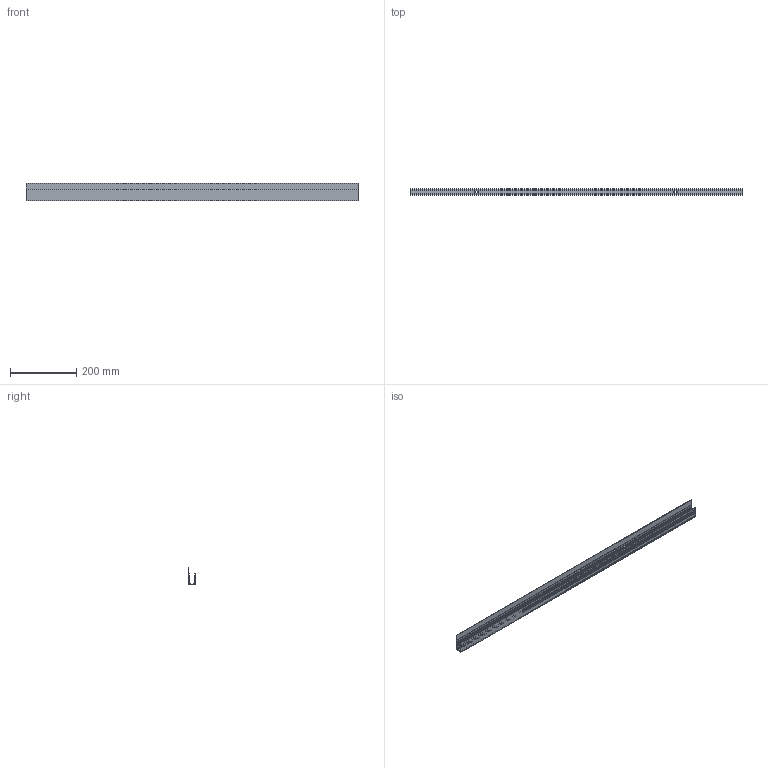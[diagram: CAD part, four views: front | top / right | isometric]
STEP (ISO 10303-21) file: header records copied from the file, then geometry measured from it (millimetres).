
FILE_DESCRIPTION(/* description */ (''),/* implementation_level */ '2;1');
FILE_NAME(/* name */ 'LF_SILICONE_STRAIGHT_PROFILE_GLARE_SHIELD_L1000_R02.step',/* time_stamp */ '2026-08-18T17:34:57+02:00',/* author */ (''),/* organization */ (''),/* preprocessor_version */ 'ST-DEVELOPER v20.1',/* originating_system */ 'Autodesk Translation Framework v15.8.0.0',/* authorisation */ '');
FILE_SCHEMA (('AUTOMOTIVE_DESIGN { 1 0 10303 214 3 1 1 }'));
Length unit declared in the file: millimetre
Products named in the file (1): 2026-08-18-10-59-34-118
Bounding box: 1000 x 20.2 x 53 mm (x, y, z)
Volume: 141557.8 mm3; surface area: 234039.6 mm2
Topology: 1 solids, 1 shells, 75 faces, 219 edges, 146 vertices
Faces by surface type: plane 45, cylinder 30
Entity records: 2534 total; most frequent: CARTESIAN_POINT 441, ORIENTED_EDGE 438, DIRECTION 431, EDGE_CURVE 219, LINE 159, VECTOR 159, VERTEX_POINT 146, AXIS2_PLACEMENT_3D 136
